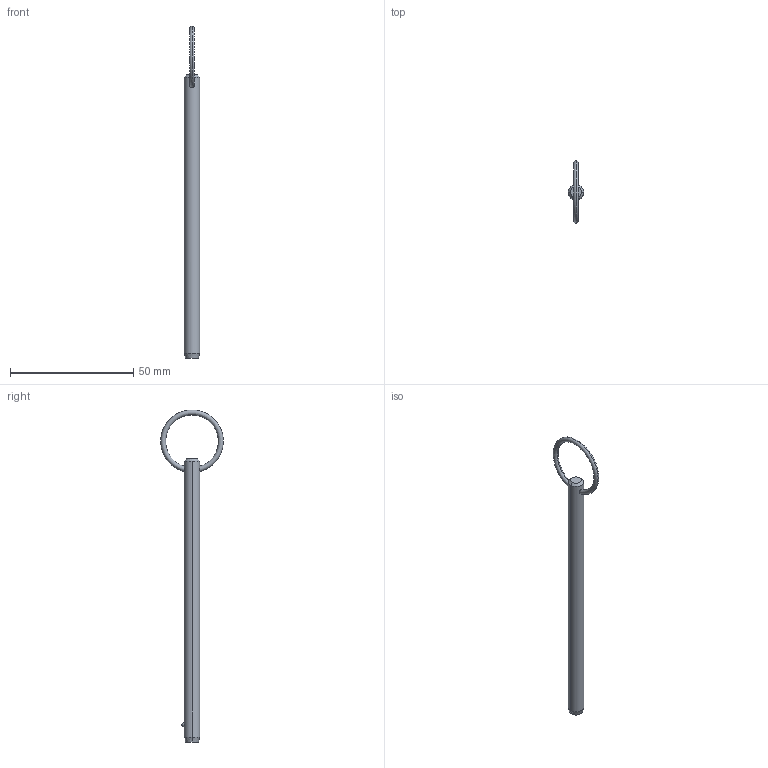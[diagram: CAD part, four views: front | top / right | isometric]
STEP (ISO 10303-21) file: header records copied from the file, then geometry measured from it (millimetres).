
FILE_DESCRIPTION (( 'STEP AP203' ), '1' );
FILE_NAME ('P1250.025-400.step', '2019-07-29T19:46:49', ( '' ), ( '' ), 'SwSTEP 2.0', 'SolidWorks 2017', '' );
FILE_SCHEMA (( 'CONFIG_CONTROL_DESIGN' ));
Length unit declared in the file: millimetre
Products named in the file (1): P1250.025-400
Bounding box: 6.35 x 25.38 x 134.92 mm (x, y, z)
Volume: 3838.8 mm3; surface area: 2753.5 mm2
Topology: 1 solids, 1 shells, 12 faces, 28 edges, 17 vertices
Faces by surface type: cone 4, torus 2, sphere 2, cylinder 2, plane 2
Entity records: 481 total; most frequent: CARTESIAN_POINT 148, DIRECTION 56, ORIENTED_EDGE 48, AXIS2_PLACEMENT_3D 25, EDGE_CURVE 24, EDGE_LOOP 15, VERTEX_POINT 15, ADVANCED_FACE 12
